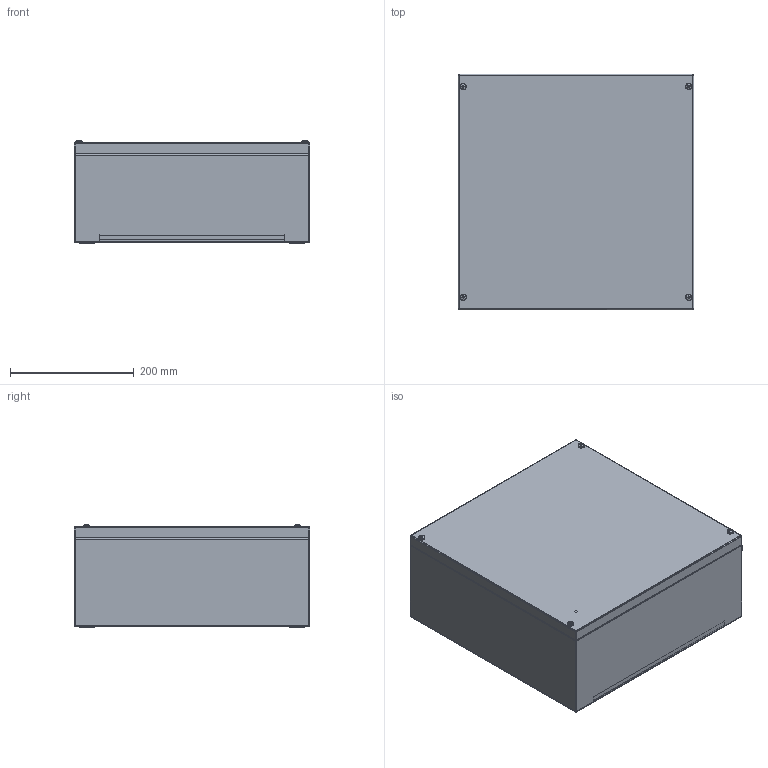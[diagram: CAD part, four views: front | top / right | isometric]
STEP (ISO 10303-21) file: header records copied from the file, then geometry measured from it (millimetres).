
FILE_DESCRIPTION (( 'STEP AP203' ), '1' );
FILE_NAME ('SS JB-380 x 380 x 161-ASSEMBLY.STEP', '2020-03-13T11:07:31', ( '' ), ( '' ), 'SwSTEP 2.0', 'SolidWorks 2018', '' );
FILE_SCHEMA (( 'CONFIG_CONTROL_DESIGN' ));
Length unit declared in the file: millimetre
Products named in the file (7): PLASTIC INSERT FOR FABRICATED ENCLOSURE; M5 BLIND NUTSERT; SS JB-380 x 380 x 161-ASSEMBLY; SS JB-380 x 380 x 161-LID_380 x 380 x 161; M5X33 LID SCREW; Dinral Mounting Channel-380; SS JB-380 x 380 x 161-BASE_380 x 380 x 161
Assembly tree (16 placements, depth 2):
  SS JB-380 x 380 x 161-ASSEMBLY
    SS JB-380 x 380 x 161-BASE_380 x 380 x 161
    Dinral Mounting Channel-380  x2
    SS JB-380 x 380 x 161-LID_380 x 380 x 161
    M5 BLIND NUTSERT  x4
    M5X33 LID SCREW  x4
    PLASTIC INSERT FOR FABRICATED ENCLOSURE  x4
Bounding box: 380 x 380 x 166.81 mm (x, y, z)
Volume: 740196.5 mm3; surface area: 1204285.7 mm2
Topology: 16 solids, 16 shells, 779 faces, 1894 edges, 1180 vertices
Faces by surface type: cylinder 370, plane 265, cone 104, bspline 32, sphere 8
Entity records: 16011 total; most frequent: CARTESIAN_POINT 5048, ORIENTED_EDGE 2088, DIRECTION 1967, EDGE_CURVE 1044, AXIS2_PLACEMENT_3D 690, VERTEX_POINT 634, LINE 587, VECTOR 587
